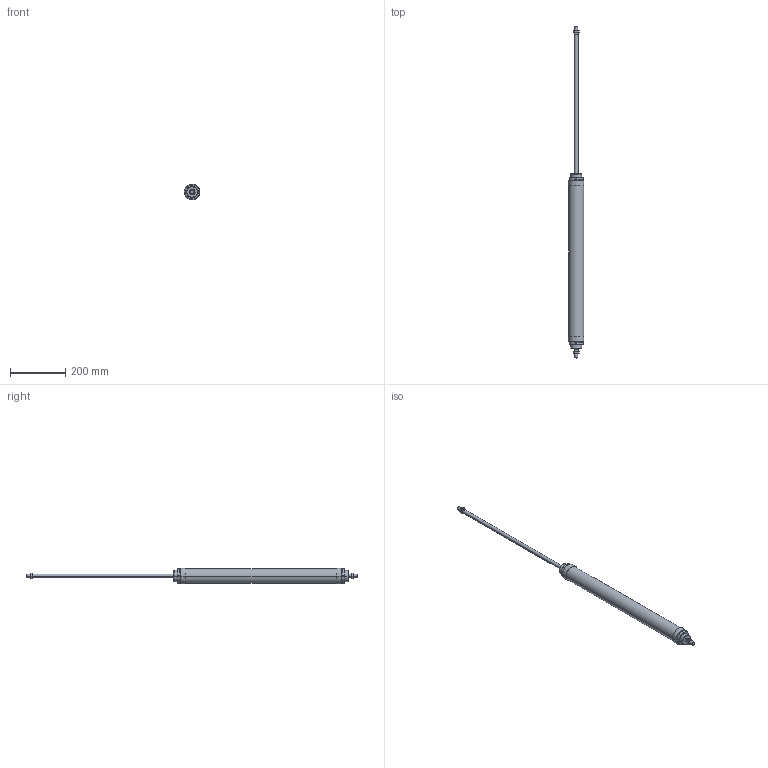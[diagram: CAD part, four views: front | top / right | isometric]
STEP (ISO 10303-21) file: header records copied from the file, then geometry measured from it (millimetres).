
FILE_DESCRIPTION((''),'2;1');
FILE_NAME('I:\DOC-EDP\Lib-3d\1200\CILINDRI\1262\1262_50_0500.stp','2003-04-02T19:17:23',('maffial1'),(''),'Autodesk Inventor (R) 6.0','Autodesk Inventor (R) 6.0','');
FILE_SCHEMA(('AUTOMOTIVE_DESIGN { 1 0 10303 214 1 1 1 1 }'));
Length unit declared in the file: millimetre
Products named in the file (5): 1262_50_0500; S1262_50_500; C1262_50_500; 1200_50_05; 1200_50_06
Assembly tree (6 placements, depth 2):
  1262_50_0500
    S1262_50_500
    C1262_50_500
    1200_50_05  x2
    1200_50_06  x2
Bounding box: 56.6 x 1202 x 57.85 mm (x, y, z)
Volume: 1509700.8 mm3; surface area: 203378.6 mm2
Topology: 6 solids, 6 shells, 182 faces, 424 edges, 264 vertices
Faces by surface type: plane 66, cone 56, cylinder 30, bspline 30
Entity records: 3737 total; most frequent: CARTESIAN_POINT 969, DIRECTION 572, ORIENTED_EDGE 548, EDGE_CURVE 274, AXIS2_PLACEMENT_3D 227, VERTEX_POINT 172, EDGE_LOOP 136, FACE_OUTER_BOUND 120
